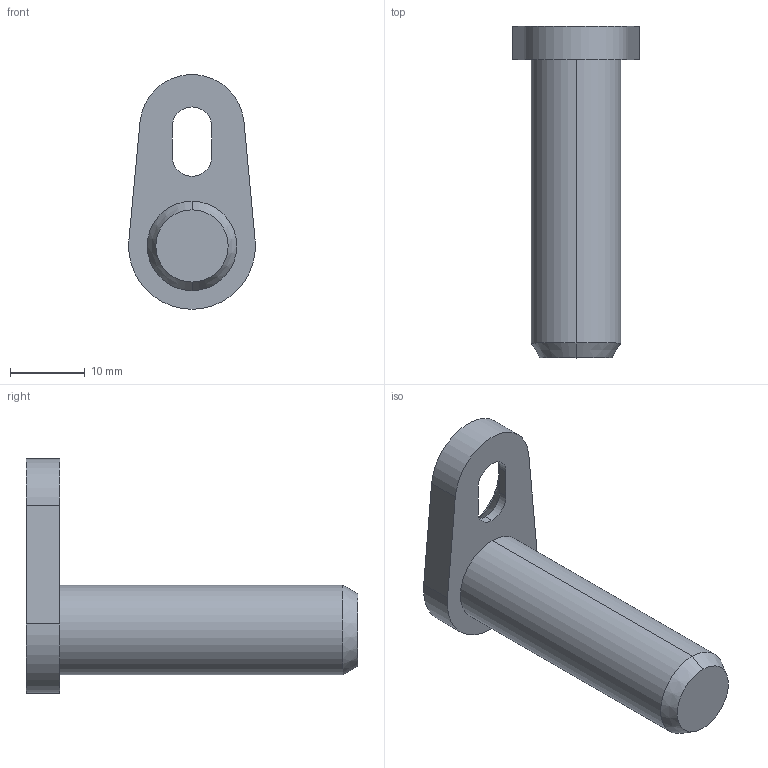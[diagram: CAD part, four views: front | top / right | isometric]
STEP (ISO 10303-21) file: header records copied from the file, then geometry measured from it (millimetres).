
FILE_DESCRIPTION (( 'STEP AP214' ), '1' );
FILE_NAME ('2342-NI-12-40-L-1.step', '2023-09-25T13:09:42', ( '' ), ( '' ), 'SwSTEP 2.0', 'SolidWorks 2022', '' );
FILE_SCHEMA (( 'AUTOMOTIVE_DESIGN' ));
Length unit declared in the file: millimetre
Products named in the file (1): 2342-NI-12-40-L-1
Bounding box: 16.96 x 44.5 x 31.47 mm (x, y, z)
Volume: 6002.1 mm3; surface area: 2799.5 mm2
Topology: 1 solids, 2 shells, 60 faces, 142 edges, 88 vertices
Faces by surface type: cylinder 36, plane 14, cone 10
Entity records: 1782 total; most frequent: DIRECTION 340, CARTESIAN_POINT 291, ORIENTED_EDGE 284, EDGE_CURVE 142, AXIS2_PLACEMENT_3D 137, VERTEX_POINT 88, CIRCLE 76, EDGE_LOOP 66
